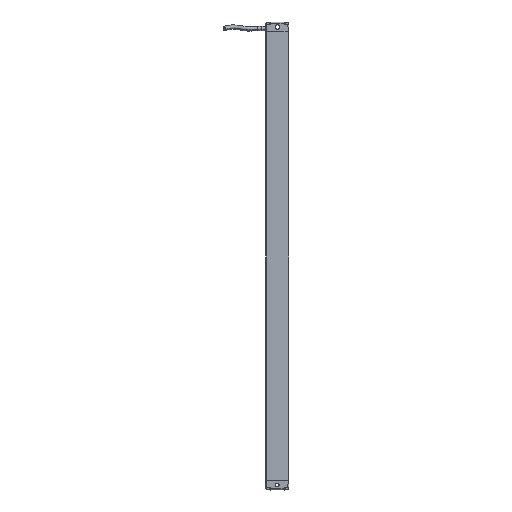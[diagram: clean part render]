
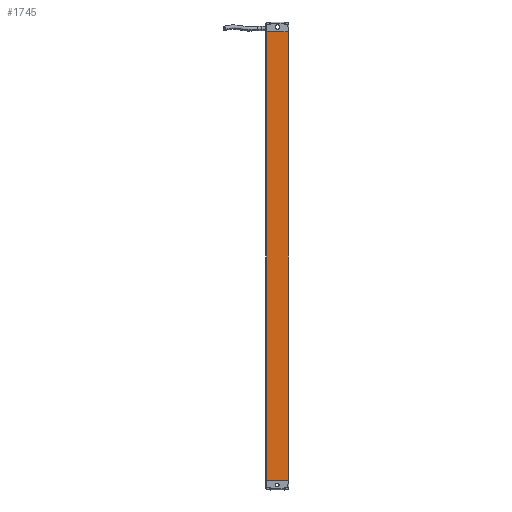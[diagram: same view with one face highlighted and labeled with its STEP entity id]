
A CAD part, front view. The second image highlights one B-rep face of the part: STEP entity #1745.
In plain terms, the highlighted planar face has unit normal (-0.001, -1, 0).
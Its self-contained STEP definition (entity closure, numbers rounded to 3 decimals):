
#1745=ADVANCED_FACE('',(#2832),#2219,.T.);
#2219=PLANE('',#15360);
#2832=FACE_OUTER_BOUND('',#3624,.T.);
#3624=EDGE_LOOP('',(#7302,#7303,#7304,#7305));
#7302=ORIENTED_EDGE('',*,*,#11460,.T.);
#7303=ORIENTED_EDGE('',*,*,#11461,.T.);
#7304=ORIENTED_EDGE('',*,*,#11462,.T.);
#7305=ORIENTED_EDGE('',*,*,#11377,.F.);
#9474=VERTEX_POINT('',#25144);
#9475=VERTEX_POINT('',#25146);
#9549=VERTEX_POINT('',#25310);
#9550=VERTEX_POINT('',#25314);
#11377=EDGE_CURVE('',#9474,#9475,#12862,.T.);
#11460=EDGE_CURVE('',#9474,#9549,#12919,.T.);
#11461=EDGE_CURVE('',#9549,#9550,#12920,.T.);
#11462=EDGE_CURVE('',#9550,#9475,#12921,.T.);
#12862=LINE('',#25145,#14077);
#12919=LINE('',#25311,#14134);
#12920=LINE('',#25313,#14135);
#12921=LINE('',#25315,#14136);
#14077=VECTOR('',#18297,1.);
#14134=VECTOR('',#18422,1.);
#14135=VECTOR('',#18425,1.);
#14136=VECTOR('',#18426,1.);
#15360=AXIS2_PLACEMENT_3D('',#25316,#18427,#18428);
#18297=DIRECTION('',(1.,-0.001,0.));
#18422=DIRECTION('',(0.,0.,-1.));
#18425=DIRECTION('',(1.,-0.001,0.));
#18426=DIRECTION('',(0.,0.,1.));
#18427=DIRECTION('',(-0.001,-1.,0.));
#18428=DIRECTION('',(1.,-0.001,0.));
#25144=CARTESIAN_POINT('',(53.048,-142.376,700.376));
#25145=CARTESIAN_POINT('',(79.028,-142.395,700.376));
#25146=CARTESIAN_POINT('',(79.028,-142.395,700.376));
#25310=CARTESIAN_POINT('',(53.048,-142.376,158.376));
#25311=CARTESIAN_POINT('',(53.048,-142.376,543.376));
#25313=CARTESIAN_POINT('',(79.028,-142.395,158.376));
#25314=CARTESIAN_POINT('',(79.028,-142.395,158.376));
#25315=CARTESIAN_POINT('',(79.028,-142.395,198.376));
#25316=CARTESIAN_POINT('',(79.028,-142.395,543.376));
